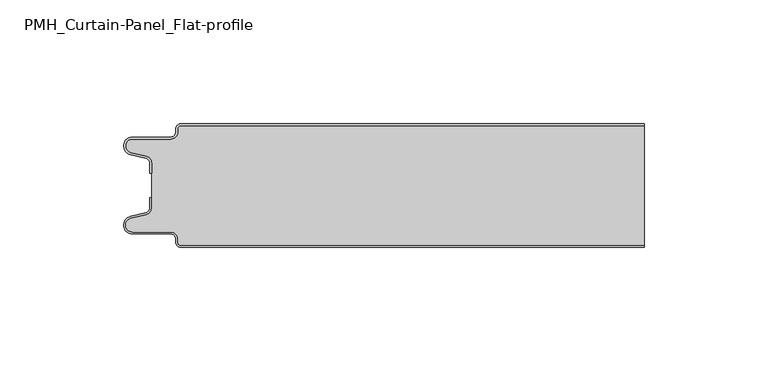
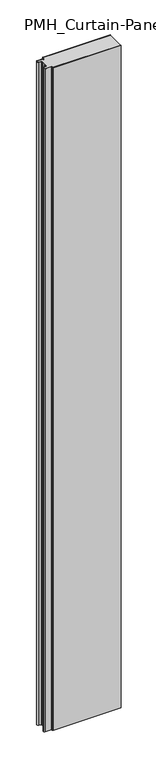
"""IFC4 building model written with IfcOpenShell, lengths in millimetres: plate geometry, PMH_Curtain-Panel_Flat-profile : ACH_PMH_Stone-wool-Panel_50M."""

import ifcopenshell
import ifcopenshell.guid

model = None  # the IFC model being written
_history = None  # IfcOwnerHistory: only IFC2X3 demands one
_inside = {}  # id of a spatial element -> (the spatial element, [elements in it])
_under = {}  # id of a project, library or spatial element -> (it, [spatial elements below it])
_declared = {}  # id of a project -> (the project, [libraries it declares])
_typed = {}  # id of a type object -> (the type object, [elements of that type])
_made_of = {}  # id of a material, layer set ... -> (it, [elements and type objects made of it])


def new_model(schema):
    """Start an empty IFC model of exactly this schema.

    Asked for "IFC4X3", IfcOpenShell would pick the latest addendum, in which some entities
    have other attributes; the version numbers below select the first issue.
    IFC2X3 requires an IfcOwnerHistory on every rooted entity: one is made here for all.
    """
    global model, _history
    if schema == "IFC4X3":
        model = ifcopenshell.file(schema_version=(4, 3, 0, 0))
    else:
        model = ifcopenshell.file(schema=schema)
    _inside.clear()
    _under.clear()
    _declared.clear()
    _typed.clear()
    _made_of.clear()
    _history = None
    if model.schema == "IFC2X3":
        org = make("IfcOrganization", Name="unknown")
        user = make(
            "IfcPersonAndOrganization",
            ThePerson=make("IfcPerson", FamilyName="unknown"),
            TheOrganization=org,
        )
        app = make(
            "IfcApplication",
            ApplicationDeveloper=org,
            Version="unknown",
            ApplicationFullName="unknown",
            ApplicationIdentifier="unknown",
        )
        _history = make(
            "IfcOwnerHistory",
            OwningUser=user,
            OwningApplication=app,
            ChangeAction="ADDED",
            CreationDate=0,
        )
    return model


def make(cls, **values):
    """One entity of the class cls with the attributes given. An attribute that is None is left unset."""
    return model.create_entity(
        cls, **{name: value for name, value in values.items() if value is not None}
    )


def rooted(cls, **values):
    """An entity with a GlobalId (a new one), such as an element, a storey or a relation."""
    return make(cls, GlobalId=ifcopenshell.guid.new(), OwnerHistory=_history, **values)


def si_unit(unit_type, name, prefix=None):
    """IfcSIUnit, for example si_unit("LENGTHUNIT", "METRE", prefix="MILLI")."""
    return make("IfcSIUnit", UnitType=unit_type, Prefix=prefix, Name=name)


def assignment(units):
    """IfcUnitAssignment: the units of a project."""
    return None if units is None else make("IfcUnitAssignment", Units=units)


def point(xyz):
    """IfcCartesianPoint."""
    return None if xyz is None else make("IfcCartesianPoint", Coordinates=xyz)


def direction(xyz):
    """IfcDirection."""
    return None if xyz is None else make("IfcDirection", DirectionRatios=xyz)


def frame(location, z_axis=None, x_axis=None):
    """IfcAxis2Placement3D, a coordinate frame: its origin and axes. An axis left out is left unset."""
    return make(
        "IfcAxis2Placement3D",
        Location=point(location),
        Axis=direction(z_axis),
        RefDirection=direction(x_axis),
    )


def frame_2d(location, x_axis=None):
    """IfcAxis2Placement2D, a coordinate frame in the plane: its origin and x axis."""
    return make(
        "IfcAxis2Placement2D", Location=point(location), RefDirection=direction(x_axis)
    )


def origin():
    """The frame at (0, 0, 0) with its axes left unset."""
    return frame((0.0, 0.0, 0.0))


def origin_with_axes():
    """The frame at (0, 0, 0) with the z axis (0, 0, 1) and the x axis (1, 0, 0) written out."""
    return frame((0.0, 0.0, 0.0), z_axis=(0.0, 0.0, 1.0), x_axis=(1.0, 0.0, 0.0))


def place(relative_to, where):
    """IfcLocalPlacement: puts the frame where relative to a parent placement (None: the world)."""
    return make(
        "IfcLocalPlacement", PlacementRelTo=relative_to, RelativePlacement=where
    )


def context(
    kind, dimensions, precision=None, world=None, true_north=None, identifier=None
):
    """IfcGeometricRepresentationContext, for example the 3D "Model" context."""
    return make(
        "IfcGeometricRepresentationContext",
        ContextIdentifier=identifier,
        ContextType=kind,
        CoordinateSpaceDimension=dimensions,
        Precision=precision,
        WorldCoordinateSystem=world,
        TrueNorth=true_north,
    )


def project(units=None, contexts=None):
    """IfcProject with its units and contexts."""
    return rooted(
        "IfcProject",
        Name="project",
        RepresentationContexts=contexts,
        UnitsInContext=assignment(units),
    )


def spatial(cls, under=None, at=None, **own):
    """A site, building, storey or space (cls), placed at a placement, below another one or the project."""
    s = rooted(cls, ObjectPlacement=at, **own)
    if under is not None:
        _under.setdefault(under.id(), (under, []))[1].append(s)
    return s


def polyline(points):
    """IfcPolyline through the points."""
    return make("IfcPolyline", Points=[point(p) for p in points])


def circle_curve(where, radius):
    """IfcCircle in the frame where."""
    return make("IfcCircle", Position=where, Radius=radius)


def trimmed(basis, trim1, trim2, sense, master):
    """IfcTrimmedCurve: the piece of a basis curve between two trims."""
    return make(
        "IfcTrimmedCurve",
        BasisCurve=basis,
        Trim1=trim1,
        Trim2=trim2,
        SenseAgreement=sense,
        MasterRepresentation=master,
    )


def segment(curve, same_sense, transition):
    """IfcCompositeCurveSegment."""
    return make(
        "IfcCompositeCurveSegment",
        Transition=transition,
        SameSense=same_sense,
        ParentCurve=curve,
    )


def composite_curve(segments, self_intersect=None):
    """IfcCompositeCurve: segments joined end to end."""
    return make("IfcCompositeCurve", Segments=segments, SelfIntersect=self_intersect)


def outline(outer, holes=None, kind="AREA"):
    """IfcArbitraryClosedProfileDef: a profile drawn as a closed curve; with holes, ...WithVoids."""
    if holes is None:
        return make("IfcArbitraryClosedProfileDef", ProfileType=kind, OuterCurve=outer)
    return make(
        "IfcArbitraryProfileDefWithVoids",
        ProfileType=kind,
        OuterCurve=outer,
        InnerCurves=holes,
    )


def extrude(swept, where, along, depth):
    """IfcExtrudedAreaSolid: the profile swept, set in the frame where, extruded along a direction by depth."""
    return make(
        "IfcExtrudedAreaSolid",
        SweptArea=swept,
        Position=where,
        ExtrudedDirection=direction(along),
        Depth=depth,
    )


def shape(context_of_items, identifier, shape_type, items):
    """IfcShapeRepresentation: the items that make up one representation, for example the "Body"."""
    return make(
        "IfcShapeRepresentation",
        ContextOfItems=context_of_items,
        RepresentationIdentifier=identifier,
        RepresentationType=shape_type,
        Items=items,
    )


def source(mapping_origin, context_of_items, identifier, shape_type, items):
    """IfcRepresentationMap: a shape defined once, which mapped items show again and again."""
    return make(
        "IfcRepresentationMap",
        MappingOrigin=mapping_origin,
        MappedRepresentation=shape(context_of_items, identifier, shape_type, items),
    )


def transform(
    local_origin,
    x_axis=None,
    y_axis=None,
    z_axis=None,
    scale=None,
    scale2=None,
    scale3=None,
    uniform=True,
):
    """IfcCartesianTransformationOperator3D, or its non-uniform kind. x_axis, y_axis, z_axis: its Axis1, 2, 3."""
    if uniform:
        return make(
            "IfcCartesianTransformationOperator3D",
            Axis1=direction(x_axis),
            Axis2=direction(y_axis),
            LocalOrigin=point(local_origin),
            Scale=scale,
            Axis3=direction(z_axis),
        )
    return make(
        "IfcCartesianTransformationOperator3DnonUniform",
        Axis1=direction(x_axis),
        Axis2=direction(y_axis),
        LocalOrigin=point(local_origin),
        Scale=scale,
        Axis3=direction(z_axis),
        Scale2=scale2,
        Scale3=scale3,
    )


def mapped(mapping_source, mapping_target):
    """IfcMappedItem: shows the shape of a source again, moved by a transform."""
    return make(
        "IfcMappedItem", MappingSource=mapping_source, MappingTarget=mapping_target
    )


def made_of(thing, what):
    """Note that an element or type object is made of a material, layer set ...; save() writes the relation."""
    if what is not None:
        _made_of.setdefault(what.id(), (what, []))[1].append(thing)
    return thing


def element(
    cls,
    number,
    at=None,
    inside=None,
    cuts=None,
    type_object=None,
    material=None,
    context=None,
    identifier="Body",
    shape_type=None,
    held_by="IfcProductDefinitionShape",
    body=None,
    shapes=None,
    **own,
):
    """One element of the class cls, such as IfcWall. Its Tag is "e" and its number.

    at: its placement. inside: the storey or other place that contains it. cuts: it is an
    opening in that element (IfcRelVoidsElement). A single representation is given by context,
    identifier, shape_type and body (its items); several are given by shapes. held_by: the class
    of the entity that holds the representations. save() writes the other relations.
    """
    e = rooted(cls, Tag="e%d" % number, ObjectPlacement=at, **own)
    if body is not None:
        shapes = [shape(context, identifier, shape_type, body)]
    if shapes is not None:
        e.Representation = make(held_by, Representations=shapes)
    if inside is not None:
        _inside.setdefault(inside.id(), (inside, []))[1].append(e)
    if cuts is not None:
        rooted(
            "IfcRelVoidsElement", RelatingBuildingElement=cuts, RelatedOpeningElement=e
        )
    if type_object is not None:
        _typed.setdefault(type_object.id(), (type_object, []))[1].append(e)
    return made_of(e, material)


def aggregate(whole, parts):
    """IfcRelAggregates: a whole, such as a stair, and the parts it consists of."""
    return rooted("IfcRelAggregates", RelatingObject=whole, RelatedObjects=parts)


def save(model, path):
    """Write the relations noted so far, then the file.

    IfcRelAggregates (storeys below a building ...), IfcRelContainedInSpatialStructure (elements
    in a storey), IfcRelDefinesByType, IfcRelAssociatesMaterial and IfcRelDeclares: one each for
    every whole, place, type object, material and project.
    """
    for whole, parts in _under.values():
        aggregate(whole, parts)
    for where, things in _inside.values():
        rooted(
            "IfcRelContainedInSpatialStructure",
            RelatedElements=things,
            RelatingStructure=where,
        )
    for kind, things in _typed.values():
        rooted("IfcRelDefinesByType", RelatedObjects=things, RelatingType=kind)
    for what, things in _made_of.values():
        rooted("IfcRelAssociatesMaterial", RelatedObjects=things, RelatingMaterial=what)
    for by, libraries in _declared.values():
        rooted("IfcRelDeclares", RelatingContext=by, RelatedDefinitions=libraries)
    model.write(path)


def pmh_curtain_panel_flat_profile_fc6ff3bb(model_context):
    return source(origin(), model_context, "Body", "SweptSolid", [
        extrude(outline(composite_curve([segment(trimmed(circle_curve(frame_2d((-87.4119739, -2.0)), 1.2), [point((-87.4119739, -0.8))], [point((-88.6119739, -2.0))], True, "CARTESIAN"), True, "CONTINUOUS"), segment(polyline([(-88.6119739, -2.0), (-88.6119739, -3.4)]), True, "CONTINUOUS"), segment(trimmed(circle_curve(frame_2d((-91.4119739, -3.4)), 2.8), [point((-88.6119739, -3.4))], [point((-91.4119739, -6.2))], False, "CARTESIAN"), True, "CONTINUOUS"), segment(polyline([(-91.4119739, -6.2), (-106.9119739, -6.2)]), True, "CONTINUOUS"), segment(trimmed(circle_curve(frame_2d((-106.9119739, -9.0)), 2.8), [point((-106.9119739, -6.2))], [point((-107.541837, -11.7282362))], True, "CARTESIAN"), True, "CONTINUOUS"), segment(polyline([(-107.541837, -11.7282362), (-101.3821109, -13.150321)]), True, "CONTINUOUS"), segment(trimmed(circle_curve(frame_2d((-102.0119739, -15.878557)), 2.8), [point((-101.3821109, -13.150321))], [point((-99.2119739, -15.878557))], False, "CARTESIAN"), True, "CONTINUOUS"), segment(polyline([(-99.2119739, -15.878557), (-99.2119739, -20.0), (-100.0119739, -20.0), (-100.0119739, -15.878557)]), True, "CONTINUOUS"), segment(trimmed(circle_curve(frame_2d((-102.0119739, -15.878557)), 2.0), [point((-100.0119739, -15.878557))], [point((-101.5620718, -13.9298169))], True, "CARTESIAN"), True, "CONTINUOUS"), segment(polyline([(-101.5620718, -13.9298169), (-107.7217978, -12.507732)]), True, "CONTINUOUS"), segment(trimmed(circle_curve(frame_2d((-106.9119739, -9.0)), 3.6), [point((-107.7217978, -12.507732))], [point((-106.9119739, -5.4))], False, "CARTESIAN"), True, "CONTINUOUS"), segment(polyline([(-106.9119739, -5.4), (-91.4119739, -5.4)]), True, "CONTINUOUS"), segment(trimmed(circle_curve(frame_2d((-91.4119739, -3.4)), 2.0), [point((-91.4119739, -5.4))], [point((-89.4119739, -3.4))], True, "CARTESIAN"), True, "CONTINUOUS"), segment(polyline([(-89.4119739, -3.4), (-89.4119739, -2.0)]), True, "CONTINUOUS"), segment(trimmed(circle_curve(frame_2d((-87.4119739, -2.0)), 2.0), [point((-89.4119739, -2.0))], [point((-87.4119739, 0.0))], False, "CARTESIAN"), True, "CONTINUOUS"), segment(polyline([(-87.4119739, 0.0), (100.0119739, 0.0), (100.0119739, -0.8), (-87.4119739, -0.8)]), True, "CONTINUOUS")], self_intersect=False)), origin_with_axes(), (0.0, 0.0, 1.0), 1945.7507136),
        extrude(outline(composite_curve([segment(polyline([(-99.2119739, -34.1214426), (-99.2119739, -15.8785573)]), True, "CONTINUOUS"), segment(trimmed(circle_curve(frame_2d((-102.0119739, -15.8785573)), 2.8), [point((-99.2119739, -15.8785573))], [point((-101.3821109, -13.1503212))], True, "CARTESIAN"), True, "CONTINUOUS"), segment(polyline([(-101.3821109, -13.1503212), (-107.541837, -11.7282362)]), True, "CONTINUOUS"), segment(trimmed(circle_curve(frame_2d((-106.911974, -9.0)), 2.8), [point((-107.541837, -11.7282362))], [point((-106.911974, -6.2))], False, "CARTESIAN"), True, "CONTINUOUS"), segment(polyline([(-106.911974, -6.2), (-91.411974, -6.2)]), True, "CONTINUOUS"), segment(trimmed(circle_curve(frame_2d((-91.411974, -3.4)), 2.8), [point((-91.411974, -6.2))], [point((-88.611974, -3.4))], True, "CARTESIAN"), True, "CONTINUOUS"), segment(polyline([(-88.611974, -3.4), (-88.611974, -2.0)]), True, "CONTINUOUS"), segment(trimmed(circle_curve(frame_2d((-87.411974, -2.0)), 1.2), [point((-88.611974, -2.0))], [point((-87.411974, -0.8))], False, "CARTESIAN"), True, "CONTINUOUS"), segment(polyline([(-87.411974, -0.8), (100.0119739, -0.8), (100.0119739, -49.2), (-87.411974, -49.2)]), True, "CONTINUOUS"), segment(trimmed(circle_curve(frame_2d((-87.411974, -48.0)), 1.2), [point((-87.411974, -49.2))], [point((-88.611974, -48.0))], False, "CARTESIAN"), True, "CONTINUOUS"), segment(polyline([(-88.611974, -48.0), (-88.611974, -46.6)]), True, "CONTINUOUS"), segment(trimmed(circle_curve(frame_2d((-91.411974, -46.6)), 2.8), [point((-88.611974, -46.6))], [point((-91.411974, -43.8))], True, "CARTESIAN"), True, "CONTINUOUS"), segment(polyline([(-91.411974, -43.8), (-106.911974, -43.8)]), True, "CONTINUOUS"), segment(trimmed(circle_curve(frame_2d((-106.911974, -41.0)), 2.8), [point((-106.911974, -43.8))], [point((-107.541837, -38.2717638))], False, "CARTESIAN"), True, "CONTINUOUS"), segment(polyline([(-107.541837, -38.2717638), (-101.3821109, -36.8496788)]), True, "CONTINUOUS"), segment(trimmed(circle_curve(frame_2d((-102.0119739, -34.1214426)), 2.8), [point((-101.3821109, -36.8496788))], [point((-99.2119739, -34.1214426))], True, "CARTESIAN"), True, "CONTINUOUS")], self_intersect=False)), origin_with_axes(), (0.0, 0.0, 1.0), 1945.7507136),
        extrude(outline(composite_curve([segment(trimmed(circle_curve(frame_2d((-87.4119739, -48.0)), 2.0), [point((-87.4119739, -50.0))], [point((-89.4119739, -48.0))], False, "CARTESIAN"), True, "CONTINUOUS"), segment(polyline([(-89.4119739, -48.0), (-89.4119739, -46.6)]), True, "CONTINUOUS"), segment(trimmed(circle_curve(frame_2d((-91.4119739, -46.6)), 2.0), [point((-89.4119739, -46.6))], [point((-91.4119739, -44.6))], True, "CARTESIAN"), True, "CONTINUOUS"), segment(polyline([(-91.4119739, -44.6), (-106.9119739, -44.6)]), True, "CONTINUOUS"), segment(trimmed(circle_curve(frame_2d((-106.9119739, -41.0)), 3.6), [point((-106.9119739, -44.6))], [point((-107.7217979, -37.4922678))], False, "CARTESIAN"), True, "CONTINUOUS"), segment(polyline([(-107.7217979, -37.4922678), (-101.5620718, -36.070183)]), True, "CONTINUOUS"), segment(trimmed(circle_curve(frame_2d((-102.0119739, -34.121443)), 2.0), [point((-101.5620718, -36.070183))], [point((-100.0119739, -34.121443))], True, "CARTESIAN"), True, "CONTINUOUS"), segment(polyline([(-100.0119739, -34.121443), (-100.0119739, -30.0), (-99.2119739, -30.0), (-99.2119739, -34.121443)]), True, "CONTINUOUS"), segment(trimmed(circle_curve(frame_2d((-102.0119739, -34.121443)), 2.8), [point((-99.2119739, -34.121443))], [point((-101.3821109, -36.8496792))], False, "CARTESIAN"), True, "CONTINUOUS"), segment(polyline([(-101.3821109, -36.8496792), (-107.5418369, -38.271764)]), True, "CONTINUOUS"), segment(trimmed(circle_curve(frame_2d((-106.9119739, -41.0)), 2.8), [point((-107.5418369, -38.271764))], [point((-106.9119739, -43.8))], True, "CARTESIAN"), True, "CONTINUOUS"), segment(polyline([(-106.9119739, -43.8), (-91.4119739, -43.8)]), True, "CONTINUOUS"), segment(trimmed(circle_curve(frame_2d((-91.4119739, -46.6)), 2.8), [point((-91.4119739, -43.8))], [point((-88.6119739, -46.6))], False, "CARTESIAN"), True, "CONTINUOUS"), segment(polyline([(-88.6119739, -46.6), (-88.6119739, -48.0)]), True, "CONTINUOUS"), segment(trimmed(circle_curve(frame_2d((-87.4119739, -48.0)), 1.2), [point((-88.6119739, -48.0))], [point((-87.4119739, -49.2))], True, "CARTESIAN"), True, "CONTINUOUS"), segment(polyline([(-87.4119739, -49.2), (100.0119739, -49.2), (100.0119739, -50.0), (-87.4119739, -50.0)]), True, "CONTINUOUS")], self_intersect=False)), origin_with_axes(), (0.0, 0.0, 1.0), 1945.7507136),
    ])


if __name__ == "__main__":
    model = new_model("IFC4")
    model_context = context("Model", 3, world=origin())
    ifc_project = project(units=[si_unit("LENGTHUNIT", "METRE", prefix="MILLI")], contexts=[model_context])
    site = spatial("IfcSite", under=ifc_project)
    building = spatial("IfcBuilding", under=site)
    placement = place(None, origin())
    pmh_curtain_panel_flat_profile_shape = pmh_curtain_panel_flat_profile_fc6ff3bb(model_context)
    element("IfcPlate", 1, ObjectType="PMH_Curtain-Panel_Flat-profile : ACH_PMH_Stone-wool-Panel_50M", at=placement, inside=building, context=model_context, shape_type="MappedRepresentation", body=[
        mapped(pmh_curtain_panel_flat_profile_shape, transform((0.0, 0.0, 0.0), x_axis=(1.0, 0.0, 0.0), y_axis=(0.0, 1.0, 0.0), z_axis=(0.0, 0.0, 1.0))),
    ])
    save(model, "model.ifc")
